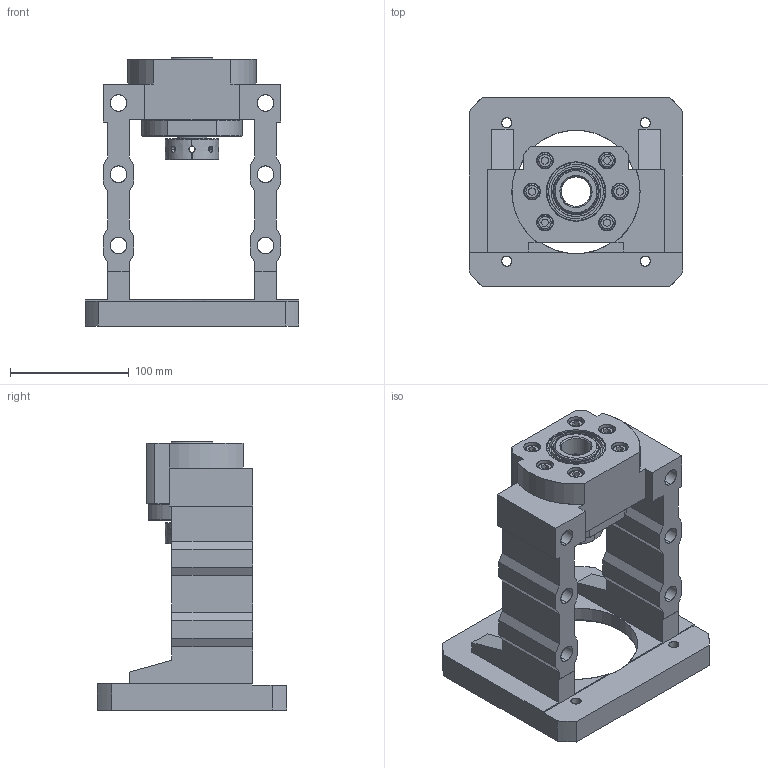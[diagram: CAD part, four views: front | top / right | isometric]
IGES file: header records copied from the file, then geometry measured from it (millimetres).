
Start section: SolidWorks IGES file using analytic representation for surfaces
Bounding box: 180 x 160 x 226 mm (x, y, z)
Surface area: 206064.6 mm2 (no closed solid volume)
Topology: 0 solids, 0 shells, 340 faces, 5973 edges, 5965 vertices
Faces by surface type: revolution 174, bspline 166
